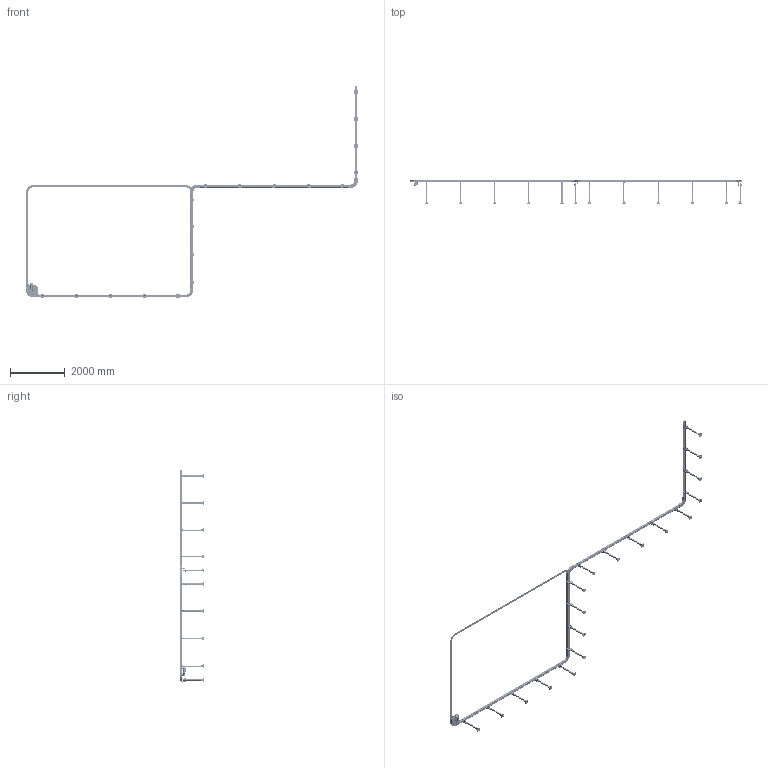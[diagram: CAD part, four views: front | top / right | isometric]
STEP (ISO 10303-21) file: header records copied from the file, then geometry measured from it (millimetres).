
FILE_DESCRIPTION (( 'STEP AP203' ), '1' );
FILE_NAME ('NASTRO_2010.step', '2026-04-29T07:32:16', ( 'Utente Windows' ), ( '' ), 'SwSTEP 2.0', 'SolidWorks 2024', '' );
FILE_SCHEMA (( 'CONFIG_CONTROL_DESIGN' ));
Length unit declared in the file: millimetre
Products named in the file (68): 2010.450.012; 2010.450.P.490_DX; 2010.325.011; 1025UNI5933-A2; K325_2_Default<A macchina>; 2010.325.012; 0520UNI7380-A2; CATENA_ANELLO; 2010.000.078; CH05P_DX; 084.302.000 DADI ALUSIC 13x13-1_084.302.004; 2010.450.007_2000.1200.490; 084.409.002; RONDELLE UNI 6592_8.4x17 UNI 6592; BO050F; 08UNI6592-A2; 2010.000.069; 0814UNI5923-A2; 32005X-Q; 08UNI7473-A2; 800.100.014 - CURVA ESTERNA 90_Default<A macchina>; FLANGIA_GAMBA_50; 2010.450.P.490_SX; 2010.450.011; 05UNI7473-A2; 0825UNI5739-A2; 2010.000.105; 2010.325.P.490_DX; 2010.000.079; 2010.450.003; 2010.000.068; 2010.000.100; 2010.000.068_L; K325_1_Default<A macchina>; 2010.000.082; 2010.000.107; 2010.000.106; 2010.000.111; 2010.325.004; 0408UNI5933-A2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
Assembly tree (323 placements, depth 4):
  NASTRO_2010
    K325_1_Default<A macchina>
    K325_2_Default<A macchina>
    K325_3_Default<A macchina>
    K325_4_a<A macchina>
    2010.325.P.6B49.90
      084.307.006  x2
        084.307.006
        0814UNI5923-A2
      2010.000.063
      084.301.000 VITI ALUSIC_084.301.029  x4
      800.100.014 - CURVA ESTERNA 90_Default<A macchina>
      2010.000.078
      084.302.016  x2
      08UNI6592-A2  x8
      2010.000.079
      1040UNI6593-A2
      1025UNI5739-A2
      0410UNI7380-A2  x4
      084.305.024  x2
      0612UNI5933-A2  x6
      2010.000.106  x2
      2010.000.105
      0408UNI5933-A2  x4
      1030UNI5739-A2  x4
      08UNI7473-A2  x4
      0825UNI5739-A2  x4
      2010.000.082  x2
      0520UNI7380-A2  x4
      0516UNI7380-A2  x2
      05UNI7473-A2  x6
      2010.000.111
      32005X-Q
      CHIAVETTE_A 8x7x60 UNI 6604-69
      2010.000.107
      BO050F
      2010.000.100
      1025UNI5933-A2
      INSERTO FILETTATO M6_INSERTI M6 SPESSORE 2mm  x6
    2010.325.P.490_DX
      2010.450.003  x4
      0814UNI5923-A2  x8
      2010.325.007_2000.1200.490  x2
      0612UNI5933-A2  x16
      2010.325.004  x4
      2010.325.012
      2010.325.011
    2010.450.P.490_SX
      2010.450.007_2000.1200.490  x2
      2010.450.003  x4
      2010.450.004  x4
      0612UNI5933-A2  x16
      0814UNI5923-A2  x8
      2010.450.011
      2010.450.012
    2010.450.P.490_DX
      2010.450.007_2000.1200.490  x2
      2010.450.003  x4
      2010.450.004  x4
      0612UNI5933-A2  x16
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Bounding box: 12112.5 x 871.9 x 7717.5 mm (x, y, z)
Volume: 71723545.8 mm3; surface area: 38208206.3 mm2
Topology: 1104 solids, 1104 shells, 44990 faces, 116935 edges, 75530 vertices
Faces by surface type: plane 20440, cylinder 10094, cone 6043, bspline 6019, torus 2366, sphere 28
Entity records: 211263 total; most frequent: CARTESIAN_POINT 68898, ORIENTED_EDGE 27308, DIRECTION 26313, EDGE_CURVE 13654, AXIS2_PLACEMENT_3D 9515, VERTEX_POINT 8657, VECTOR 7283, LINE 7283
